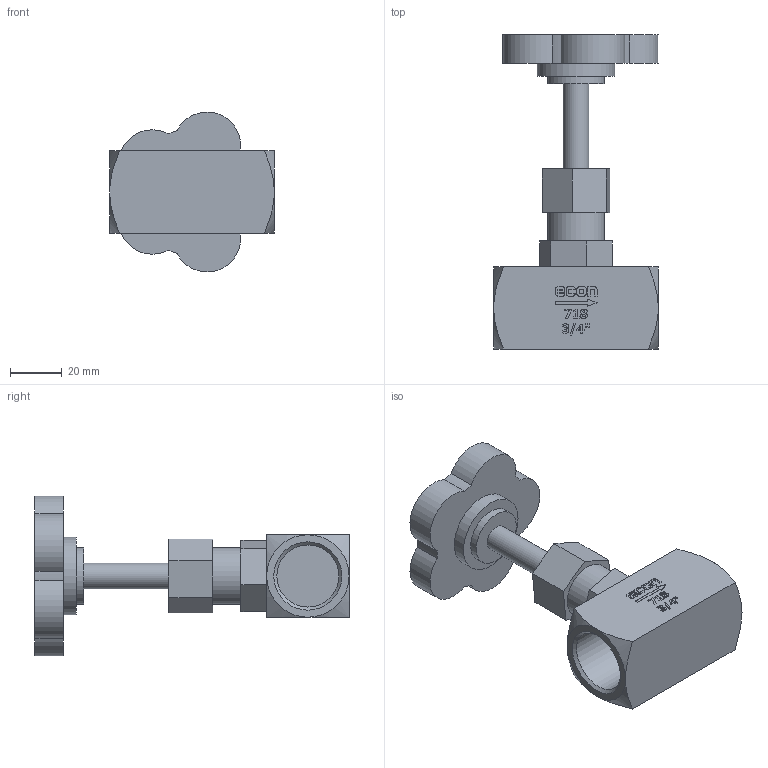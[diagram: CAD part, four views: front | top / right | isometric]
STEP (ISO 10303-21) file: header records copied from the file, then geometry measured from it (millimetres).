
FILE_DESCRIPTION(/* description */ ('Eriks item no: 11811607'),/* implementation_level */ '2;1');
FILE_NAME(/* name */ 'L:\DATA\ENG\Inventor\Econ 3D modellen\naaldafsluiter\718\718-020-PN100.stp',/* time_stamp */ '2024-02-12T09:13:31+01:00',/* author */ ('roger.thijssen'),/* organization */ (''),/* preprocessor_version */ 'ST-DEVELOPER v18',/* originating_system */ 'Autodesk Inventor 2020',/* authorisation */ '');
FILE_SCHEMA (('CONFIG_CONTROL_DESIGN'));
Length unit declared in the file: millimetre
Products named in the file (1): Needle valve, 718-020-PN100
Bounding box: 64 x 122 x 62.09 mm (x, y, z)
Volume: 95609.4 mm3; surface area: 25846.5 mm2
Topology: 1 solids, 1 shells, 234 faces, 607 edges, 404 vertices
Faces by surface type: plane 149, bspline 45, cylinder 29, cone 11
Full cylindrical faces by diameter (mm): 10 x1, 22 x2, 24.117 x2, 30 x1
Entity records: 7756 total; most frequent: CARTESIAN_POINT 1981, ORIENTED_EDGE 1214, DIRECTION 959, EDGE_CURVE 607, LINE 423, VECTOR 423, VERTEX_POINT 404, AXIS2_PLACEMENT_3D 268
